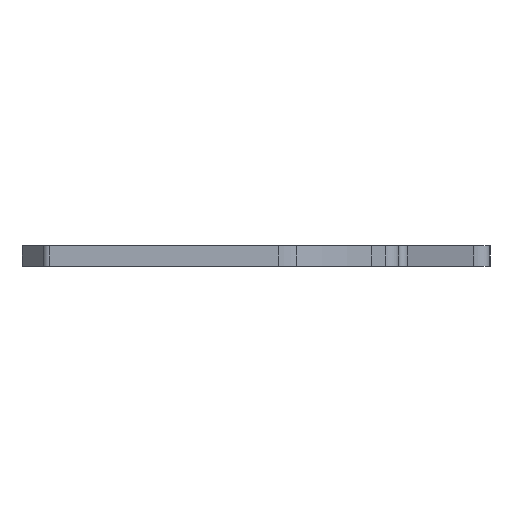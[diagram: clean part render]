
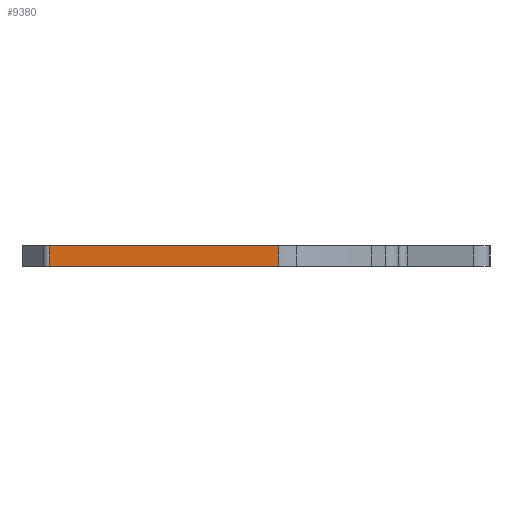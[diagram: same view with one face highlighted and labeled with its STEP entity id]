
A CAD part, left-side view. The second image highlights one B-rep face of the part: STEP entity #9380.
In plain terms, the highlighted planar face has unit normal (-1, 0, 0).
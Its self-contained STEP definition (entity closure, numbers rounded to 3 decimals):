
#1820=CARTESIAN_POINT('',(-35.,33.041,0.));
#1830=VERTEX_POINT('',#1820);
#1860=CARTESIAN_POINT('',(-35.,0.,-0.));
#1870=DIRECTION('',(0.,-1.,0.));
#1880=VECTOR('',#1870,1.);
#1890=LINE('',#1860,#1880);
#1900=CARTESIAN_POINT('',(-35.,16.,0.));
#1910=VERTEX_POINT('',#1900);
#1920=EDGE_CURVE('',#1830,#1910,#1890,.T.);
#3830=CARTESIAN_POINT('',(-35.,16.,1.5));
#3840=VERTEX_POINT('',#3830);
#3870=CARTESIAN_POINT('',(-35.,33.041,1.5));
#3880=DIRECTION('',(0.,-1.,0.));
#3890=VECTOR('',#3880,1.);
#3900=LINE('',#3870,#3890);
#3910=CARTESIAN_POINT('',(-35.,33.041,1.5));
#3920=VERTEX_POINT('',#3910);
#3930=EDGE_CURVE('',#3920,#3840,#3900,.T.);
#9130=CARTESIAN_POINT('',(-35.,33.041,0.));
#9140=DIRECTION('',(0.,0.,1.));
#9150=VECTOR('',#9140,1.);
#9160=LINE('',#9130,#9150);
#9170=EDGE_CURVE('',#1830,#3920,#9160,.T.);
#9220=CARTESIAN_POINT('',(-35.,0.2,0.));
#9230=DIRECTION('',(-1.,0.,0.));
#9240=DIRECTION('',(0.,1.,0.));
#9250=AXIS2_PLACEMENT_3D('',#9220,#9230,#9240);
#9260=PLANE('',#9250);
#9270=ORIENTED_EDGE('',*,*,#3930,.F.);
#9280=CARTESIAN_POINT('',(-35.,16.,1.5));
#9290=DIRECTION('',(0.,0.,-1.));
#9300=VECTOR('',#9290,1.);
#9310=LINE('',#9280,#9300);
#9320=EDGE_CURVE('',#3840,#1910,#9310,.T.);
#9330=ORIENTED_EDGE('',*,*,#9320,.F.);
#9340=ORIENTED_EDGE('',*,*,#1920,.T.);
#9350=ORIENTED_EDGE('',*,*,#9170,.F.);
#9360=EDGE_LOOP('',(#9350,#9340,#9330,#9270));
#9370=FACE_OUTER_BOUND('',#9360,.T.);
#9380=ADVANCED_FACE('',(#9370),#9260,.T.);
